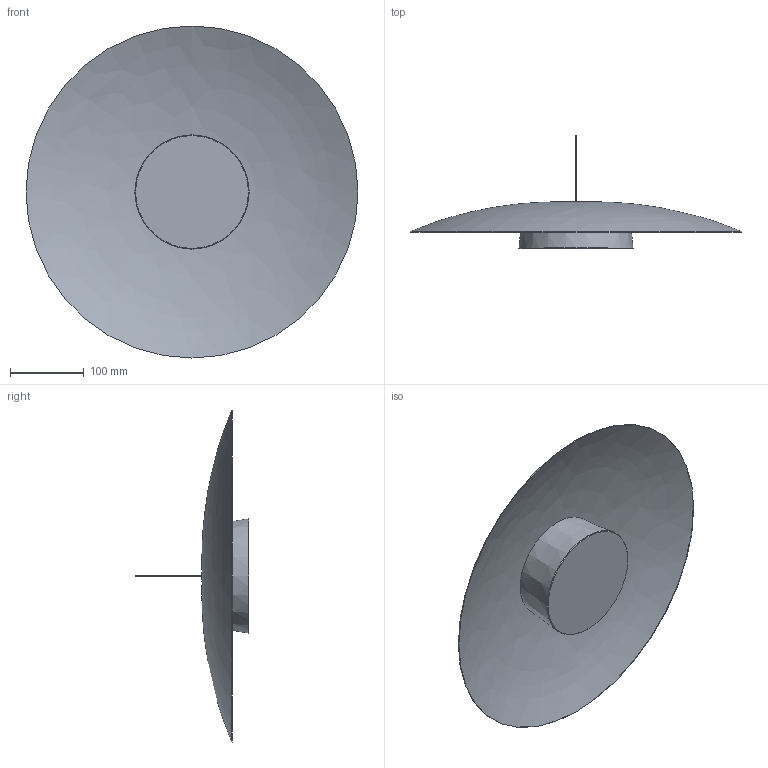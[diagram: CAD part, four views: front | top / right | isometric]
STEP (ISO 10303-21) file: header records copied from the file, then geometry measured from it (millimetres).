
FILE_DESCRIPTION(/* description */ (''),/* implementation_level */ '2;1');
FILE_NAME(/* name */ 'C:\Users\S.TOSI\Desktop\WIP\MODELLI 3D\1894XX00 - QUIQUOQUA\1894XX00 - QUIQUOQUA.stp',/* time_stamp */ '2018-07-31T08:54:07+02:00',/* author */ ('s.tosi'),/* organization */ (''),/* preprocessor_version */ 'ST-DEVELOPER v17',/* originating_system */ 'Autodesk Inventor 2019',/* authorisation */ '');
FILE_SCHEMA (('AUTOMOTIVE_DESIGN { 1 0 10303 214 3 1 1 }'));
Length unit declared in the file: millimetre
Products named in the file (1): 1894XX00 - QUIQUOQUA
Bounding box: 450 x 154.15 x 450 mm (x, y, z)
Surface area: 378561.4 mm2 (no closed solid volume)
Topology: 0 solids, 4 shells, 10 faces, 24 edges, 17 vertices
Faces by surface type: plane 3, cylinder 3, cone 2, bspline 2
Full cylindrical faces by diameter (mm): 1.2 x1, 9 x1, 450 x1
Entity records: 408 total; most frequent: CARTESIAN_POINT 102, DIRECTION 57, ORIENTED_EDGE 40, AXIS2_PLACEMENT_3D 26, EDGE_CURVE 22, CIRCLE 17, VERTEX_POINT 17, FACE_OUTER_BOUND 10
